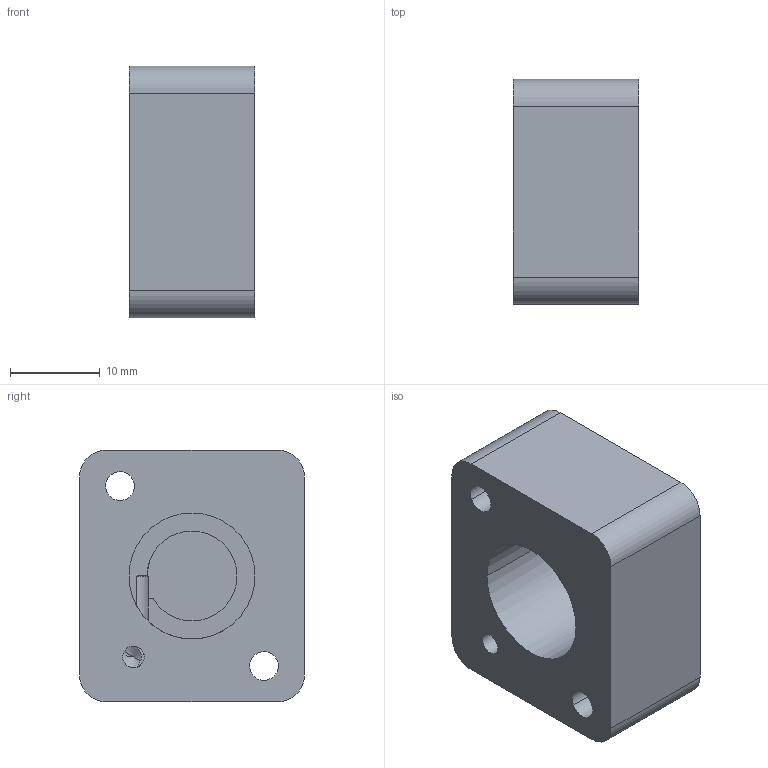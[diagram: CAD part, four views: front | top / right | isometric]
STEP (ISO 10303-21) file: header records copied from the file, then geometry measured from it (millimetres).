
FILE_DESCRIPTION(('CATIA V5 STEP Exchange'),'2;1');
FILE_NAME('F:\1.项目开发\22.集成式智能空簧\集成空簧方案设计\方案B-140直径\JCKH-17先导活塞座-20211123.stp','2021-11-23T05:32:09+00:00',('none'),('none'),'CATIA Version 5 Release 20 GA (IN-10)','CATIA V5 STEP AP214','none');
FILE_SCHEMA(('AUTOMOTIVE_DESIGN { 1 0 10303 214 1 1 1 1 }'));
Length unit declared in the file: millimetre
Products named in the file (1): JCKH-17
Bounding box: 14 x 25 x 28 mm (x, y, z)
Volume: 7515.4 mm3; surface area: 3763.5 mm2
Topology: 1 solids, 1 shells, 40 faces, 117 edges, 76 vertices
Faces by surface type: cylinder 24, plane 10, cone 6
Entity records: 1621 total; most frequent: CARTESIAN_POINT 427, ORIENTED_EDGE 226, DIRECTION 151, EDGE_CURVE 113, VERTEX_POINT 76, AXIS2_PLACEMENT_3D 73, EDGE_LOOP 49, VECTOR 45
